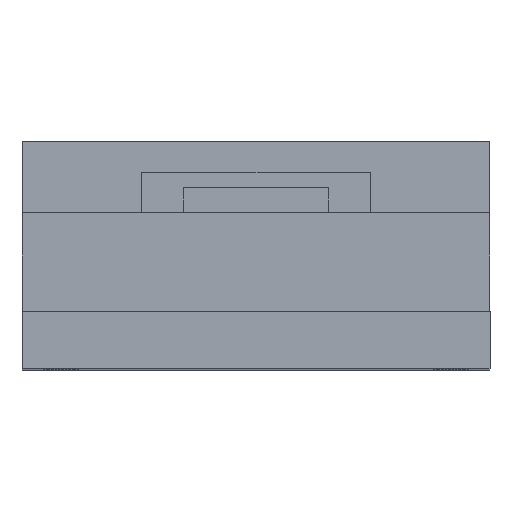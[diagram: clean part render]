
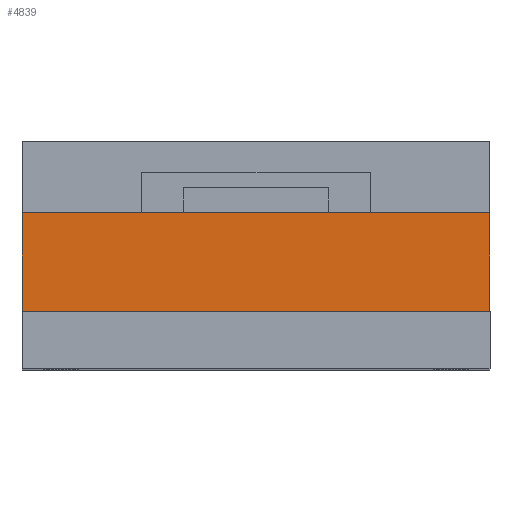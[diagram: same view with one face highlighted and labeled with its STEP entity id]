
A CAD part, top view. The second image highlights one B-rep face of the part: STEP entity #4839.
In plain terms, the highlighted planar face has unit normal (0, 0, 1).
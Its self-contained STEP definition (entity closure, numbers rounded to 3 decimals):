
#146 = CARTESIAN_POINT ( 'NONE',  ( 31.853, 19., 148.964 ) ) ;
#709 = ORIENTED_EDGE ( 'NONE', *, *, #10896, .T. ) ;
#986 = EDGE_CURVE ( 'NONE', #10863, #9423, #8281, .T. ) ;
#1022 = CARTESIAN_POINT ( 'NONE',  ( 121.853, 0., 148.964 ) ) ;
#1489 = LINE ( 'NONE', #146, #10965 ) ;
#1660 = ORIENTED_EDGE ( 'NONE', *, *, #16447, .F. ) ;
#1933 = VECTOR ( 'NONE', #2063, 1000. ) ;
#2063 = DIRECTION ( 'NONE',  ( 1., 0., 0. ) ) ;
#2538 = EDGE_LOOP ( 'NONE', ( #8013, #10936, #1660, #709 ) ) ;
#4571 = AXIS2_PLACEMENT_3D ( 'NONE', #5113, #8809, #13993 ) ;
#4839 = ADVANCED_FACE ( 'NONE', ( #16489 ), #12648, .F. ) ;
#5066 = VECTOR ( 'NONE', #5976, 1000. ) ;
#5113 = CARTESIAN_POINT ( 'NONE',  ( 31.853, 19., 148.964 ) ) ;
#5976 = DIRECTION ( 'NONE',  ( 0., -1., 0. ) ) ;
#6996 = CARTESIAN_POINT ( 'NONE',  ( 121.853, 19., 148.964 ) ) ;
#8013 = ORIENTED_EDGE ( 'NONE', *, *, #986, .T. ) ;
#8257 = LINE ( 'NONE', #6996, #5066 ) ;
#8281 = LINE ( 'NONE', #13467, #1933 ) ;
#8809 = DIRECTION ( 'NONE',  ( 0., 0., -1. ) ) ;
#9423 = VERTEX_POINT ( 'NONE', #1022 ) ;
#10391 = CARTESIAN_POINT ( 'NONE',  ( 121.853, 19., 148.964 ) ) ;
#10658 = VERTEX_POINT ( 'NONE', #10391 ) ;
#10863 = VERTEX_POINT ( 'NONE', #14048 ) ;
#10896 = EDGE_CURVE ( 'NONE', #13201, #10863, #1489, .T. ) ;
#10936 = ORIENTED_EDGE ( 'NONE', *, *, #12309, .F. ) ;
#10965 = VECTOR ( 'NONE', #11623, 1000. ) ;
#11222 = VECTOR ( 'NONE', #14296, 1000. ) ;
#11618 = CARTESIAN_POINT ( 'NONE',  ( 31.853, 19., 148.964 ) ) ;
#11623 = DIRECTION ( 'NONE',  ( 0., -1., 0. ) ) ;
#12309 = EDGE_CURVE ( 'NONE', #10658, #9423, #8257, .T. ) ;
#12648 = PLANE ( 'NONE',  #4571 ) ;
#12865 = LINE ( 'NONE', #11618, #11222 ) ;
#13201 = VERTEX_POINT ( 'NONE', #13392 ) ;
#13392 = CARTESIAN_POINT ( 'NONE',  ( 31.853, 19., 148.964 ) ) ;
#13467 = CARTESIAN_POINT ( 'NONE',  ( 31.853, 0., 148.964 ) ) ;
#13993 = DIRECTION ( 'NONE',  ( -1., 0., 0. ) ) ;
#14048 = CARTESIAN_POINT ( 'NONE',  ( 31.853, 0., 148.964 ) ) ;
#14296 = DIRECTION ( 'NONE',  ( 1., 0., 0. ) ) ;
#16447 = EDGE_CURVE ( 'NONE', #13201, #10658, #12865, .T. ) ;
#16489 = FACE_OUTER_BOUND ( 'NONE', #2538, .T. ) ;
